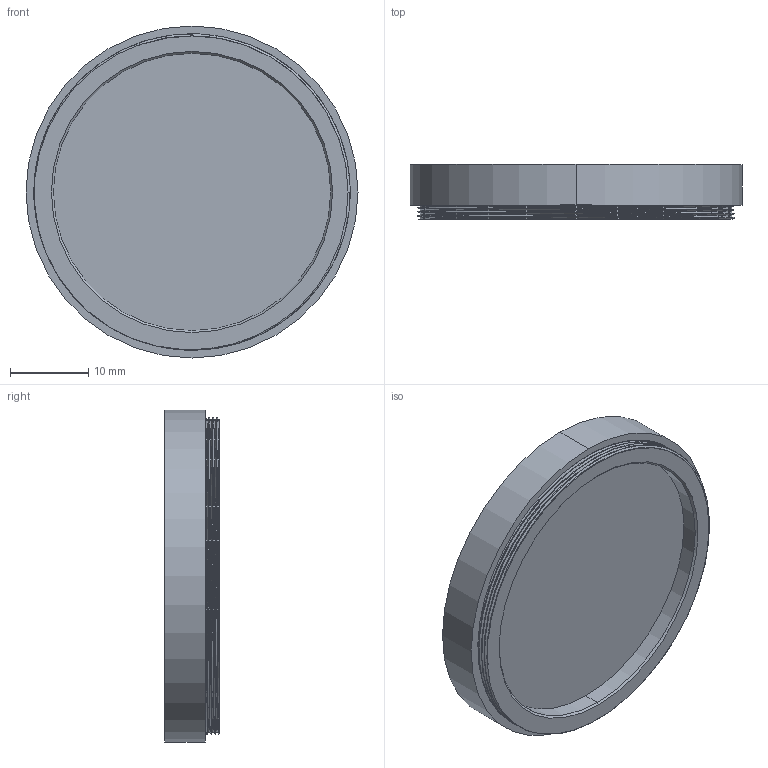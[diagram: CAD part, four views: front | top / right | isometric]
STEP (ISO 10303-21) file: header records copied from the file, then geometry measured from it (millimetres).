
FILE_DESCRIPTION (( 'STEP AP214' ), '1' );
FILE_NAME ('M40.5 x P0.5.STEP', '2023-01-19T08:17:58', ( '' ), ( '' ), 'SwSTEP 2.0', 'SolidWorks 2021', '' );
FILE_SCHEMA (( 'AUTOMOTIVE_DESIGN' ));
Length unit declared in the file: millimetre
Products named in the file (1): M40.5 x P0.5
Bounding box: 42.5 x 7 x 42.5 mm (x, y, z)
Volume: 2212.3 mm3; surface area: 5811.4 mm2
Topology: 3 solids, 3 shells, 50 faces, 121 edges, 80 vertices
Faces by surface type: cylinder 32, plane 10, bspline 6, cone 2
Entity records: 2880 total; most frequent: CARTESIAN_POINT 1785, ORIENTED_EDGE 242, DIRECTION 191, EDGE_CURVE 121, VERTEX_POINT 80, AXIS2_PLACEMENT_3D 79, EDGE_LOOP 57, FACE_OUTER_BOUND 50
